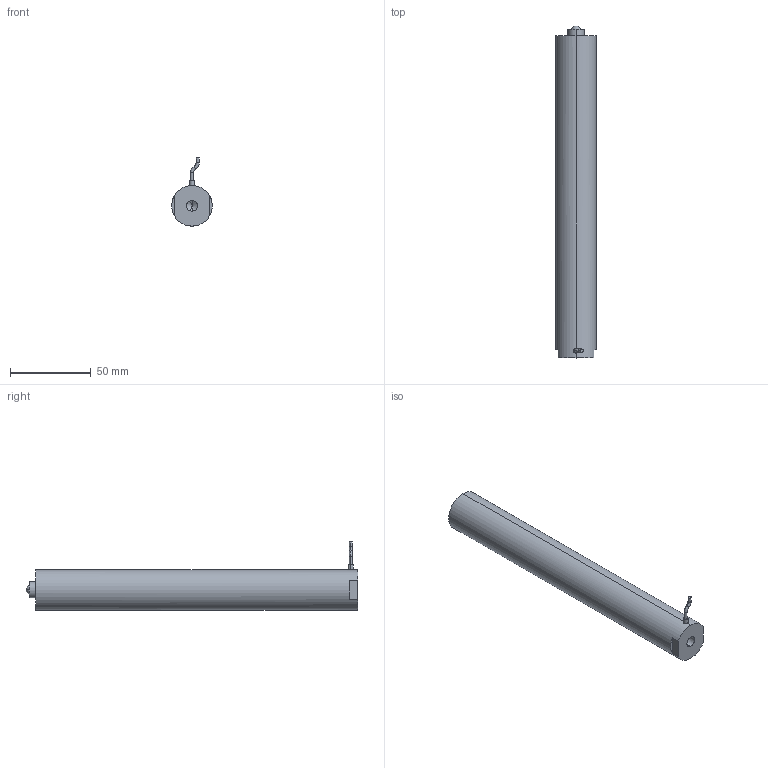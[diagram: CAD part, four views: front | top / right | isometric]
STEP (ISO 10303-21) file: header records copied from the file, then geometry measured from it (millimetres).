
FILE_DESCRIPTION (( 'STEP AP203' ), '1' );
FILE_NAME ('球头式200VS25.STEP', '2021-07-08T07:57:10', ( '微软用户' ), ( '微软公司' ), 'SwSTEP 2.0', 'SolidWorks 2016', '' );
FILE_SCHEMA (( 'CONFIG_CONTROL_DESIGN' ));
Products named in the file (1): ⑩芛宒200VS25
Bounding box: 25 x 205 x 42.06 mm (x, y, z)
Volume: 97561.3 mm3; surface area: 17109.3 mm2
Topology: 1 solids, 1 shells, 942 faces, 2552 edges, 1696 vertices
Faces by surface type: bspline 523, plane 307, cylinder 104, torus 4, sphere 2, cone 2
Entity records: 45448 total; most frequent: CARTESIAN_POINT 26377, ORIENTED_EDGE 5092, EDGE_CURVE 2546, DIRECTION 1930, B_SPLINE_CURVE_WITH_KNOTS 1728, VERTEX_POINT 1694, EDGE_LOOP 1030, ADVANCED_FACE 942
